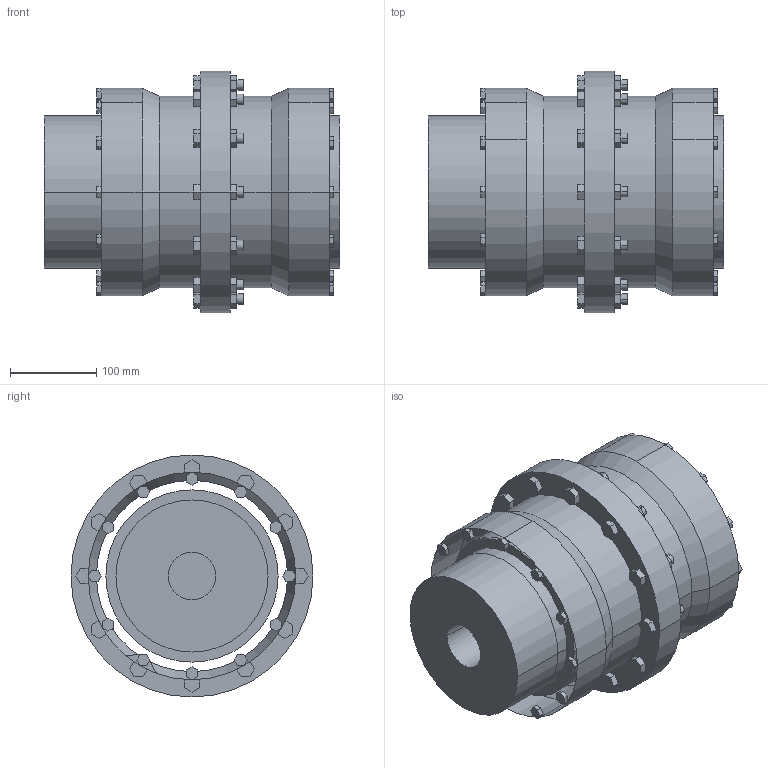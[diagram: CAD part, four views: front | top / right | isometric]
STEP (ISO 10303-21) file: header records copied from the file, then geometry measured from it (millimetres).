
FILE_DESCRIPTION((''),'2;1');
FILE_NAME('A19711800-0_ASM','2019-05-23T',('AB_Roschiwal'),('RENK AG'),'PRO/ENGINEER BY PARAMETRIC TECHNOLOGY CORPORATION, 2015440','PRO/ENGINEER BY PARAMETRIC TECHNOLOGY CORPORATION, 2015440','');
FILE_SCHEMA(('CONFIG_CONTROL_DESIGN'));
Length unit declared in the file: millimetre
Products named in the file (3): SBK110_GEHAEUSE; SBK110_NABE; A19711800-0_ASM
Assembly tree (3 placements, depth 2):
  A19711800-0_ASM
    SBK110_GEHAEUSE
    SBK110_NABE  x2
Bounding box: 342 x 280 x 280 mm (x, y, z)
Volume: 10237647.1 mm3; surface area: 729488.9 mm2
Topology: 3 solids, 3 shells, 422 faces, 1152 edges, 732 vertices
Faces by surface type: plane 362, cylinder 56, cone 4
Entity records: 12156 total; most frequent: CARTESIAN_POINT 2116, ORIENTED_EDGE 2064, DIRECTION 1980, EDGE_CURVE 1032, VECTOR 916, LINE 916, VERTEX_POINT 668, AXIS2_PLACEMENT_3D 532
